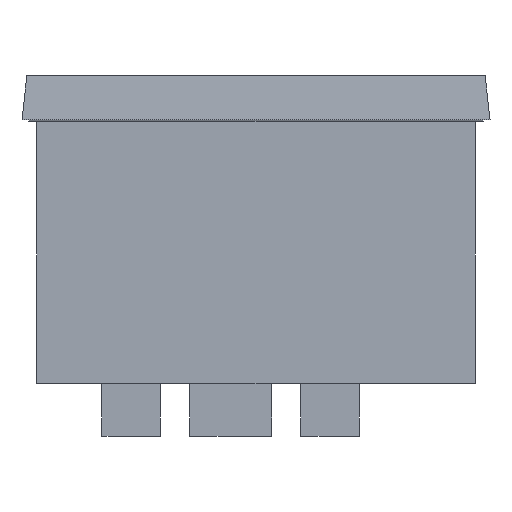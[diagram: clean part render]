
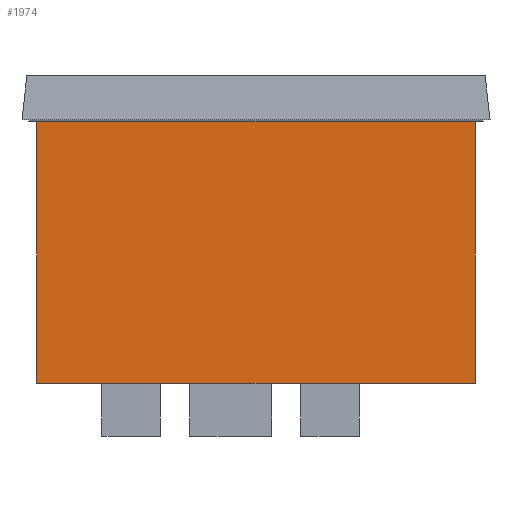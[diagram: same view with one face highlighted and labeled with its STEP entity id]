
A CAD part, front view. The second image highlights one B-rep face of the part: STEP entity #1974.
In plain terms, the highlighted planar face has unit normal (0, -1, 0).
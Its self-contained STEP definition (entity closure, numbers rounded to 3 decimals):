
#90 = VERTEX_POINT ( 'NONE', #476 ) ;
#109 = VECTOR ( 'NONE', #1677, 1000. ) ;
#149 = EDGE_CURVE ( 'NONE', #1571, #90, #1860, .T. ) ;
#209 = ORIENTED_EDGE ( 'NONE', *, *, #1045, .T. ) ;
#255 = CARTESIAN_POINT ( 'NONE',  ( -45., -21.5, -9. ) ) ;
#267 = VECTOR ( 'NONE', #983, 1000. ) ;
#285 = LINE ( 'NONE', #786, #109 ) ;
#290 = VERTEX_POINT ( 'NONE', #255 ) ;
#319 = VERTEX_POINT ( 'NONE', #1514 ) ;
#325 = EDGE_CURVE ( 'NONE', #290, #319, #1399, .T. ) ;
#338 = AXIS2_PLACEMENT_3D ( 'NONE', #1296, #1460, #1601 ) ;
#362 = CARTESIAN_POINT ( 'NONE',  ( 45., -21.5, -9. ) ) ;
#432 = EDGE_CURVE ( 'NONE', #290, #1571, #1895, .T. ) ;
#476 = CARTESIAN_POINT ( 'NONE',  ( 45., -21.5, -63.1 ) ) ;
#484 = CARTESIAN_POINT ( 'NONE',  ( 45., -21.5, -55.1 ) ) ;
#511 = FACE_OUTER_BOUND ( 'NONE', #1452, .T. ) ;
#517 = CARTESIAN_POINT ( 'NONE',  ( -45., -21.5, -9. ) ) ;
#616 = DIRECTION ( 'NONE',  ( 0., 0., -1. ) ) ;
#684 = VECTOR ( 'NONE', #616, 1000. ) ;
#786 = CARTESIAN_POINT ( 'NONE',  ( -45., -21.5, -63.1 ) ) ;
#983 = DIRECTION ( 'NONE',  ( 1., 0., 0. ) ) ;
#991 = PLANE ( 'NONE',  #338 ) ;
#1002 = ORIENTED_EDGE ( 'NONE', *, *, #432, .F. ) ;
#1045 = EDGE_CURVE ( 'NONE', #319, #90, #285, .T. ) ;
#1095 = CARTESIAN_POINT ( 'NONE',  ( -45., -21.5, -55.1 ) ) ;
#1122 = ORIENTED_EDGE ( 'NONE', *, *, #325, .T. ) ;
#1175 = ORIENTED_EDGE ( 'NONE', *, *, #149, .F. ) ;
#1296 = CARTESIAN_POINT ( 'NONE',  ( 34.6, -21.5, -55.1 ) ) ;
#1364 = DIRECTION ( 'NONE',  ( 0., 0., -1. ) ) ;
#1399 = LINE ( 'NONE', #1095, #684 ) ;
#1452 = EDGE_LOOP ( 'NONE', ( #209, #1175, #1002, #1122 ) ) ;
#1460 = DIRECTION ( 'NONE',  ( 0., -1., 0. ) ) ;
#1514 = CARTESIAN_POINT ( 'NONE',  ( -45., -21.5, -63.1 ) ) ;
#1571 = VERTEX_POINT ( 'NONE', #362 ) ;
#1601 = DIRECTION ( 'NONE',  ( 0., 0., -1. ) ) ;
#1677 = DIRECTION ( 'NONE',  ( 1., 0., 0. ) ) ;
#1860 = LINE ( 'NONE', #484, #1881 ) ;
#1881 = VECTOR ( 'NONE', #1364, 1000. ) ;
#1895 = LINE ( 'NONE', #517, #267 ) ;
#1974 = ADVANCED_FACE ( 'NONE', ( #511 ), #991, .T. ) ;
